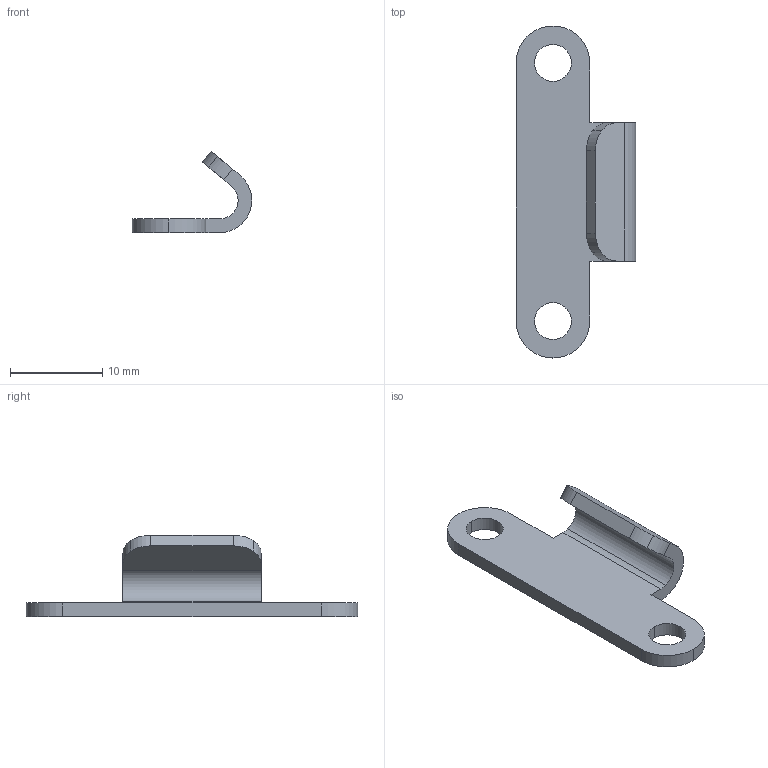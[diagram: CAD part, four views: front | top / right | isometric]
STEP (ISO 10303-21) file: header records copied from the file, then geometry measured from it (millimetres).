
FILE_DESCRIPTION((''),'2;1');
FILE_NAME('1013.__-5.stp','2012-01-23T09:01:11',(''),(''),'Mechanical Desktop 2006','Mechanical Desktop 2006',', , ');
FILE_SCHEMA(('CONFIG_CONTROL_DESIGN'));
Length unit declared in the file: millimetre
Products named in the file (2): 1013.__-5; ~TEIL1
Assembly tree (1 placements, depth 2):
  1013.__-5
    ~TEIL1
Bounding box: 13 x 36 x 8.82 mm (x, y, z)
Volume: 645.4 mm3; surface area: 1053.1 mm2
Topology: 1 solids, 1 shells, 26 faces, 72 edges, 48 vertices
Faces by surface type: cylinder 16, plane 10
Entity records: 965 total; most frequent: DIRECTION 160, CARTESIAN_POINT 148, ORIENTED_EDGE 144, EDGE_CURVE 72, AXIS2_PLACEMENT_3D 60, VERTEX_POINT 48, VECTOR 40, LINE 40
